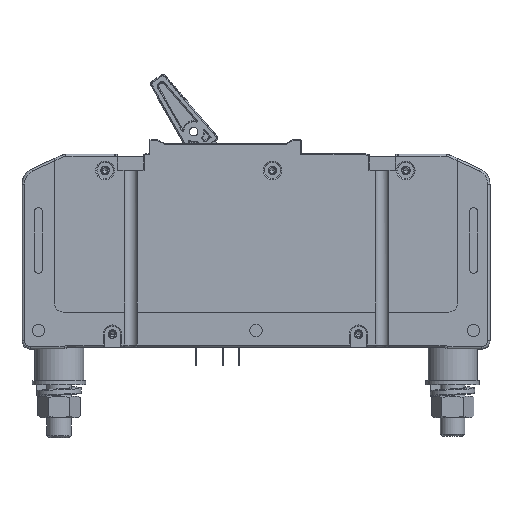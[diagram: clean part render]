
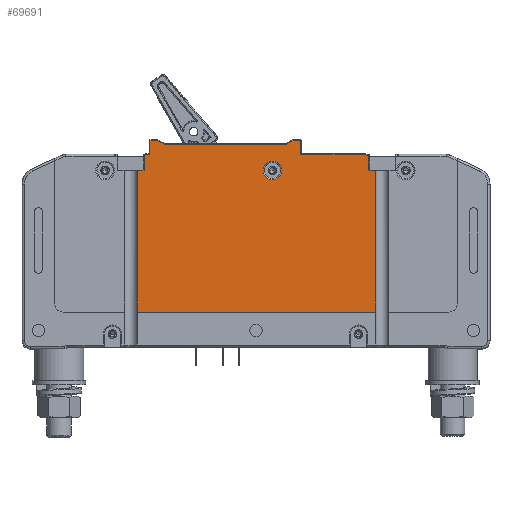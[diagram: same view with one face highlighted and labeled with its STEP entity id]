
A CAD part, top view. The second image highlights one B-rep face of the part: STEP entity #69691.
In plain terms, the highlighted planar face has unit normal (0, 0, 1).
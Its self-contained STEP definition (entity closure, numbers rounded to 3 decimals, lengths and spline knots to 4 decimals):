
#8870=DIRECTION('',(-1.,0.,0.));
#8871=VECTOR('',#8870,0.1004);
#8872=CARTESIAN_POINT('',(5.382,2.7156,0.75));
#8873=LINE('',#8872,#8871);
#8874=DIRECTION('',(0.,1.,0.));
#8875=VECTOR('',#8874,2.1536);
#8876=CARTESIAN_POINT('',(5.382,0.562,0.75));
#8877=LINE('',#8876,#8875);
#8878=DIRECTION('',(-1.,0.,0.));
#8879=VECTOR('',#8878,3.624);
#8880=CARTESIAN_POINT('',(5.382,0.562,0.75));
#8881=LINE('',#8880,#8879);
#8882=DIRECTION('',(0.,1.,0.));
#8883=VECTOR('',#8882,2.1536);
#8884=CARTESIAN_POINT('',(1.758,0.562,0.75));
#8885=LINE('',#8884,#8883);
#8886=DIRECTION('',(-1.,0.,0.));
#8887=VECTOR('',#8886,0.1004);
#8888=CARTESIAN_POINT('',(1.8584,2.7156,0.75));
#8889=LINE('',#8888,#8887);
#8890=DIRECTION('',(0.,1.,0.));
#8891=VECTOR('',#8890,0.218);
#8892=CARTESIAN_POINT('',(4.2398,2.9578,0.75));
#8893=LINE('',#8892,#8891);
#9762=DIRECTION('',(-1.,0.,0.));
#9763=VECTOR('',#9762,0.1121);
#9764=CARTESIAN_POINT('',(2.0603,3.1758,0.75));
#9765=LINE('',#9764,#9763);
#9801=DIRECTION('',(0.,-1.,0.));
#9802=VECTOR('',#9801,0.218);
#9803=CARTESIAN_POINT('',(1.9482,3.1758,0.75));
#9804=LINE('',#9803,#9802);
#9846=DIRECTION('',(-1.,0.,0.));
#9847=VECTOR('',#9846,0.0625);
#9848=CARTESIAN_POINT('',(1.9482,2.9578,0.75));
#9849=LINE('',#9848,#9847);
#9885=DIRECTION('',(-0.929,-0.371,0.));
#9886=VECTOR('',#9885,0.0245);
#9887=CARTESIAN_POINT('',(1.8857,2.9578,0.75));
#9888=LINE('',#9887,#9886);
#9924=DIRECTION('',(-1.,0.,0.));
#9925=VECTOR('',#9924,0.0045);
#9926=CARTESIAN_POINT('',(1.8629,2.9487,0.75));
#9927=LINE('',#9926,#9925);
#9942=DIRECTION('',(0.,-1.,0.));
#9943=VECTOR('',#9942,0.2331);
#9944=CARTESIAN_POINT('',(1.8584,2.9487,0.75));
#9945=LINE('',#9944,#9943);
#12244=DIRECTION('',(0.,1.,0.));
#12245=VECTOR('',#12244,0.2331);
#12246=CARTESIAN_POINT('',(5.2816,2.7156,0.75));
#12247=LINE('',#12246,#12245);
#12248=DIRECTION('',(-1.,0.,0.));
#12249=VECTOR('',#12248,0.0295);
#12250=CARTESIAN_POINT('',(5.2816,2.9487,0.75));
#12251=LINE('',#12250,#12249);
#12266=DIRECTION('',(-0.929,0.371,0.));
#12267=VECTOR('',#12266,0.0245);
#12268=CARTESIAN_POINT('',(5.2521,2.9487,0.75));
#12269=LINE('',#12268,#12267);
#12305=DIRECTION('',(-1.,0.,0.));
#12306=VECTOR('',#12305,0.9895);
#12307=CARTESIAN_POINT('',(5.2293,2.9578,0.75));
#12308=LINE('',#12307,#12306);
#41621=CARTESIAN_POINT('',(3.812,2.718,0.75));
#41622=DIRECTION('',(0.,0.,-1.));
#41623=DIRECTION('',(-1.,0.,0.));
#41624=AXIS2_PLACEMENT_3D('',#41621,#41622,#41623);
#41636=CARTESIAN_POINT('',(3.812,2.718,0.75));
#41637=DIRECTION('',(0.,0.,-1.));
#41638=DIRECTION('',(1.,0.,0.));
#41639=AXIS2_PLACEMENT_3D('',#41636,#41637,#41638);
#42973=DIRECTION('',(-0.866,0.5,0.));
#42974=VECTOR('',#42973,0.12);
#42975=CARTESIAN_POINT('',(2.1642,3.1158,0.75));
#42976=LINE('',#42975,#42974);
#43028=DIRECTION('',(-1.,0.,0.));
#43029=VECTOR('',#43028,1.8596);
#43030=CARTESIAN_POINT('',(4.0238,3.1158,0.75));
#43031=LINE('',#43030,#43029);
#43067=DIRECTION('',(-0.866,-0.5,0.));
#43068=VECTOR('',#43067,0.12);
#43069=CARTESIAN_POINT('',(4.1277,3.1758,0.75));
#43070=LINE('',#43069,#43068);
#43118=DIRECTION('',(-1.,0.,0.));
#43119=VECTOR('',#43118,0.1121);
#43120=CARTESIAN_POINT('',(4.2398,3.1758,0.75));
#43121=LINE('',#43120,#43119);
#56991=CARTESIAN_POINT('',(5.382,0.562,0.75));
#56992=CARTESIAN_POINT('',(1.758,0.562,0.75));
#56993=VERTEX_POINT('',#56991);
#56994=VERTEX_POINT('',#56992);
#57873=CARTESIAN_POINT('',(3.6709,2.718,0.75));
#57874=CARTESIAN_POINT('',(3.9531,2.718,0.75));
#57875=VERTEX_POINT('',#57873);
#57876=VERTEX_POINT('',#57874);
#58367=CARTESIAN_POINT('',(5.382,2.7156,0.75));
#58368=CARTESIAN_POINT('',(5.2816,2.7156,0.75));
#58369=VERTEX_POINT('',#58367);
#58370=VERTEX_POINT('',#58368);
#58371=CARTESIAN_POINT('',(1.8584,2.7156,0.75));
#58372=CARTESIAN_POINT('',(1.758,2.7156,0.75));
#58373=VERTEX_POINT('',#58371);
#58374=VERTEX_POINT('',#58372);
#58387=CARTESIAN_POINT('',(4.2398,2.9578,0.75));
#58388=CARTESIAN_POINT('',(4.2398,3.1758,0.75));
#58389=VERTEX_POINT('',#58387);
#58390=VERTEX_POINT('',#58388);
#58393=CARTESIAN_POINT('',(5.2293,2.9578,0.75));
#58394=VERTEX_POINT('',#58393);
#58397=CARTESIAN_POINT('',(5.2521,2.9487,0.75));
#58398=VERTEX_POINT('',#58397);
#58401=CARTESIAN_POINT('',(5.2816,2.9487,0.75));
#58402=VERTEX_POINT('',#58401);
#58405=CARTESIAN_POINT('',(4.1277,3.1758,0.75));
#58406=VERTEX_POINT('',#58405);
#58409=CARTESIAN_POINT('',(4.0238,3.1158,0.75));
#58410=VERTEX_POINT('',#58409);
#58413=CARTESIAN_POINT('',(2.1642,3.1158,0.75));
#58414=VERTEX_POINT('',#58413);
#58417=CARTESIAN_POINT('',(2.0603,3.1758,0.75));
#58418=VERTEX_POINT('',#58417);
#58421=CARTESIAN_POINT('',(1.9482,3.1758,0.75));
#58422=VERTEX_POINT('',#58421);
#58431=CARTESIAN_POINT('',(1.9482,2.9578,0.75));
#58432=VERTEX_POINT('',#58431);
#58435=CARTESIAN_POINT('',(1.8857,2.9578,0.75));
#58436=VERTEX_POINT('',#58435);
#58439=CARTESIAN_POINT('',(1.8629,2.9487,0.75));
#58440=VERTEX_POINT('',#58439);
#58443=CARTESIAN_POINT('',(1.8584,2.9487,0.75));
#58444=VERTEX_POINT('',#58443);
#69640=CARTESIAN_POINT('',(0.,0.,0.75));
#69641=DIRECTION('',(0.,0.,1.));
#69642=DIRECTION('',(1.,0.,0.));
#69643=AXIS2_PLACEMENT_3D('',#69640,#69641,#69642);
#69644=PLANE('',#69643);
#69646=ORIENTED_EDGE('',*,*,#69645,.F.);
#69648=ORIENTED_EDGE('',*,*,#69647,.F.);
#69650=ORIENTED_EDGE('',*,*,#69649,.F.);
#69652=ORIENTED_EDGE('',*,*,#69651,.F.);
#69654=ORIENTED_EDGE('',*,*,#69653,.F.);
#69655=ORIENTED_EDGE('',*,*,#69630,.F.);
#69656=ORIENTED_EDGE('',*,*,#66701,.F.);
#69658=ORIENTED_EDGE('',*,*,#69657,.T.);
#69660=ORIENTED_EDGE('',*,*,#69659,.T.);
#69662=ORIENTED_EDGE('',*,*,#69661,.F.);
#69664=ORIENTED_EDGE('',*,*,#69663,.F.);
#69666=ORIENTED_EDGE('',*,*,#69665,.F.);
#69668=ORIENTED_EDGE('',*,*,#69667,.F.);
#69670=ORIENTED_EDGE('',*,*,#69669,.F.);
#69672=ORIENTED_EDGE('',*,*,#69671,.F.);
#69674=ORIENTED_EDGE('',*,*,#69673,.F.);
#69676=ORIENTED_EDGE('',*,*,#69675,.F.);
#69678=ORIENTED_EDGE('',*,*,#69677,.F.);
#69680=ORIENTED_EDGE('',*,*,#69679,.F.);
#69682=ORIENTED_EDGE('',*,*,#69681,.F.);
#69683=EDGE_LOOP('',(#69646,#69648,#69650,#69652,#69654,#69655,#69656,#69658,
#69660,#69662,#69664,#69666,#69668,#69670,#69672,#69674,#69676,#69678,#69680,
#69682));
#69684=FACE_OUTER_BOUND('',#69683,.F.);
#69686=ORIENTED_EDGE('',*,*,#69685,.F.);
#69688=ORIENTED_EDGE('',*,*,#69687,.F.);
#69689=EDGE_LOOP('',(#69686,#69688));
#69690=FACE_BOUND('',#69689,.F.);
#41625=CIRCLE('',#41624,0.1411);
#41640=CIRCLE('',#41639,0.1411);
#66701=EDGE_CURVE('',#56993,#58369,#8877,.T.);
#69630=EDGE_CURVE('',#58369,#58370,#8873,.T.);
#69645=EDGE_CURVE('',#58389,#58390,#8893,.T.);
#69647=EDGE_CURVE('',#58394,#58389,#12308,.T.);
#69649=EDGE_CURVE('',#58398,#58394,#12269,.T.);
#69651=EDGE_CURVE('',#58402,#58398,#12251,.T.);
#69653=EDGE_CURVE('',#58370,#58402,#12247,.T.);
#69657=EDGE_CURVE('',#56993,#56994,#8881,.T.);
#69659=EDGE_CURVE('',#56994,#58374,#8885,.T.);
#69661=EDGE_CURVE('',#58373,#58374,#8889,.T.);
#69663=EDGE_CURVE('',#58444,#58373,#9945,.T.);
#69665=EDGE_CURVE('',#58440,#58444,#9927,.T.);
#69667=EDGE_CURVE('',#58436,#58440,#9888,.T.);
#69669=EDGE_CURVE('',#58432,#58436,#9849,.T.);
#69671=EDGE_CURVE('',#58422,#58432,#9804,.T.);
#69673=EDGE_CURVE('',#58418,#58422,#9765,.T.);
#69675=EDGE_CURVE('',#58414,#58418,#42976,.T.);
#69677=EDGE_CURVE('',#58410,#58414,#43031,.T.);
#69679=EDGE_CURVE('',#58406,#58410,#43070,.T.);
#69681=EDGE_CURVE('',#58390,#58406,#43121,.T.);
#69685=EDGE_CURVE('',#57875,#57876,#41625,.T.);
#69687=EDGE_CURVE('',#57876,#57875,#41640,.T.);
#69691=ADVANCED_FACE('',(#69684,#69690),#69644,.T.);
